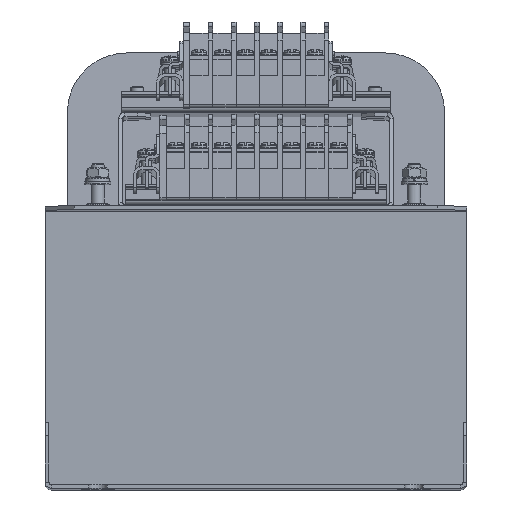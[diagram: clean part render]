
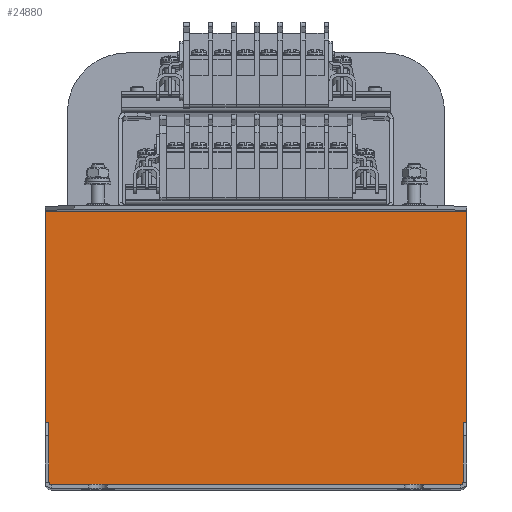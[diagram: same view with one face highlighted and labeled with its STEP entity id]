
A CAD part, top view. The second image highlights one B-rep face of the part: STEP entity #24880.
In plain terms, the highlighted planar face has unit normal (0, 0, 1).
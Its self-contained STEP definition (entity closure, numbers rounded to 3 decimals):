
#24687=CARTESIAN_POINT('',(-80.0,103.527,2.5));
#24688=VERTEX_POINT('',#24687);
#24695=CARTESIAN_POINT('',(80.0,103.527,2.5));
#24696=VERTEX_POINT('',#24695);
#24697=CARTESIAN_POINT('',(80.0,103.527,2.5));
#24698=DIRECTION('',(-1.0,0.0,0.0));
#24699=VECTOR('',#24698,160.0);
#24700=LINE('',#24697,#24699);
#24701=EDGE_CURVE('',#24696,#24688,#24700,.T.);
#24745=CARTESIAN_POINT('',(80.0,0.,2.5));
#24746=VERTEX_POINT('',#24745);
#24747=CARTESIAN_POINT('',(80.0,103.527,2.5));
#24748=DIRECTION('',(0.0,-1.0,0.0));
#24749=VECTOR('',#24748,103.527);
#24750=LINE('',#24747,#24749);
#24751=EDGE_CURVE('',#24696,#24746,#24750,.T.);
#24786=CARTESIAN_POINT('',(-80.0,0.,2.5));
#24787=VERTEX_POINT('',#24786);
#24794=CARTESIAN_POINT('',(-80.0,0.,2.5));
#24795=DIRECTION('',(0.0,1.0,0.0));
#24796=VECTOR('',#24795,103.527);
#24797=LINE('',#24794,#24796);
#24798=EDGE_CURVE('',#24787,#24688,#24797,.T.);
#24859=CARTESIAN_POINT('',(-80.0,0.,2.5));
#24860=DIRECTION('',(1.0,0.0,0.0));
#24861=VECTOR('',#24860,160.0);
#24862=LINE('',#24859,#24861);
#24863=EDGE_CURVE('',#24787,#24746,#24862,.T.);
#24869=CARTESIAN_POINT('',(0.0,105.029,2.5));
#24870=DIRECTION('',(0.0,0.0,1.0));
#24871=DIRECTION('',(0.0,-1.0,0.0));
#24872=AXIS2_PLACEMENT_3D('',#24869,#24870,#24871);
#24873=PLANE('',#24872);
#24874=ORIENTED_EDGE('',*,*,#24701,.T.);
#24875=ORIENTED_EDGE('',*,*,#24798,.F.);
#24876=ORIENTED_EDGE('',*,*,#24863,.T.);
#24877=ORIENTED_EDGE('',*,*,#24751,.F.);
#24878=EDGE_LOOP('',(#24874,#24875,#24876,#24877));
#24879=FACE_OUTER_BOUND('',#24878,.T.);
#24880=ADVANCED_FACE('',(#24879),#24873,.T.);
